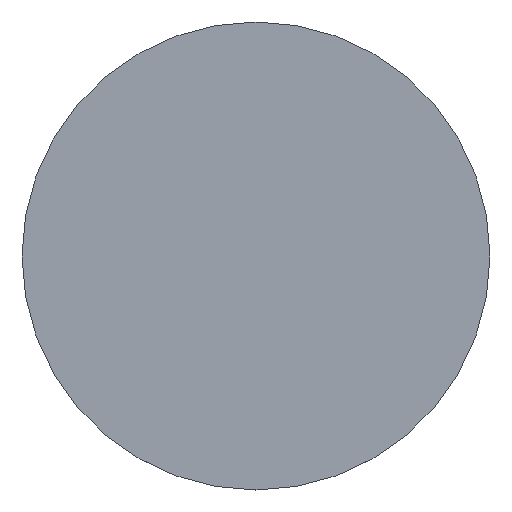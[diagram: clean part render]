
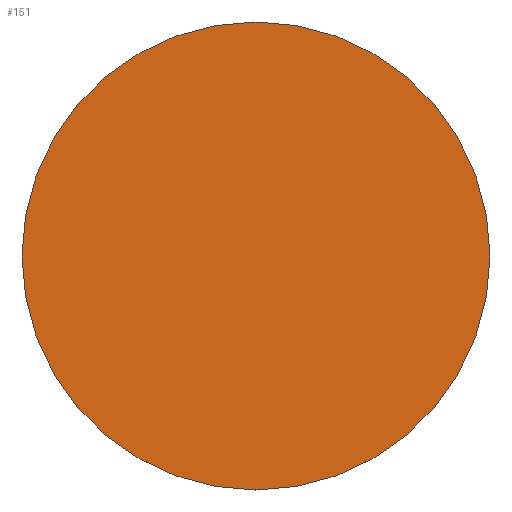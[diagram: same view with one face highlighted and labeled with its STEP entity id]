
A CAD part, top view. The second image highlights one B-rep face of the part: STEP entity #151.
In plain terms, the highlighted planar face has unit normal (0, 0, 1).
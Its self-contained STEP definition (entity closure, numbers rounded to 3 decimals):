
#5 = AXIS2_PLACEMENT_3D ( 'NONE', #152, #76, #36 ) ;
#19 = ORIENTED_EDGE ( 'NONE', *, *, #79, .T. ) ;
#29 = AXIS2_PLACEMENT_3D ( 'NONE', #137, #139, #107 ) ;
#34 = VERTEX_POINT ( 'NONE', #104 ) ;
#36 = DIRECTION ( 'NONE',  ( 1., 0., 0. ) ) ;
#45 = VERTEX_POINT ( 'NONE', #102 ) ;
#47 = CARTESIAN_POINT ( 'NONE',  ( 0., 0., 2. ) ) ;
#55 = AXIS2_PLACEMENT_3D ( 'NONE', #47, #154, #143 ) ;
#61 = EDGE_CURVE ( 'NONE', #45, #34, #169, .T. ) ;
#76 = DIRECTION ( 'NONE',  ( 0., 0., 1. ) ) ;
#79 = EDGE_CURVE ( 'NONE', #34, #45, #80, .T. ) ;
#80 = CIRCLE ( 'NONE', #5, 178. ) ;
#87 = FACE_OUTER_BOUND ( 'NONE', #136, .T. ) ;
#101 = ORIENTED_EDGE ( 'NONE', *, *, #61, .T. ) ;
#102 = CARTESIAN_POINT ( 'NONE',  ( -178., 0., 2. ) ) ;
#103 = PLANE ( 'NONE',  #29 ) ;
#104 = CARTESIAN_POINT ( 'NONE',  ( 178., 0., 2. ) ) ;
#107 = DIRECTION ( 'NONE',  ( 1., 0., 0. ) ) ;
#136 = EDGE_LOOP ( 'NONE', ( #101, #19 ) ) ;
#137 = CARTESIAN_POINT ( 'NONE',  ( 0., 0., 2. ) ) ;
#139 = DIRECTION ( 'NONE',  ( 0., 0., 1. ) ) ;
#143 = DIRECTION ( 'NONE',  ( 1., 0., 0. ) ) ;
#151 = ADVANCED_FACE ( 'NONE', ( #87 ), #103, .T. ) ;
#152 = CARTESIAN_POINT ( 'NONE',  ( 0., 0., 2. ) ) ;
#154 = DIRECTION ( 'NONE',  ( 0., 0., 1. ) ) ;
#169 = CIRCLE ( 'NONE', #55, 178. ) ;
